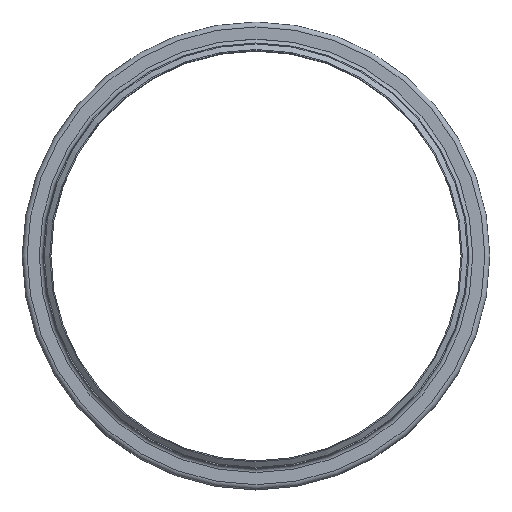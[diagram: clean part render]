
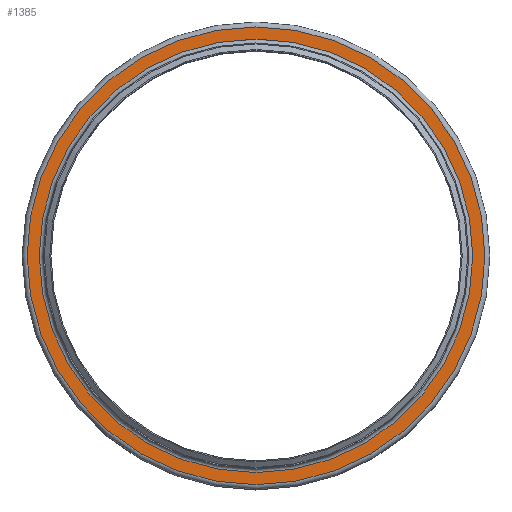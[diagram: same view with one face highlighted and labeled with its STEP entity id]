
A CAD part, top view. The second image highlights one B-rep face of the part: STEP entity #1385.
In plain terms, the highlighted planar face has unit normal (0, 0, 1).
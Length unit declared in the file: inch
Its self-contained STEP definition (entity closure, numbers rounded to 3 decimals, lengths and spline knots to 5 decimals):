
#155=FACE_BOUND('',#416,.T.);
#256=FACE_OUTER_BOUND('',#415,.T.);
#415=EDGE_LOOP('',(#1168));
#416=EDGE_LOOP('',(#1169));
#584=CIRCLE('',#1684,12.28);
#585=CIRCLE('',#1686,12.97);
#703=VERTEX_POINT('',#2631);
#704=VERTEX_POINT('',#2635);
#862=EDGE_CURVE('',#703,#703,#584,.T.);
#863=EDGE_CURVE('',#704,#704,#585,.T.);
#1168=ORIENTED_EDGE('',*,*,#863,.F.);
#1169=ORIENTED_EDGE('',*,*,#862,.T.);
#1284=PLANE('',#1685);
#1385=ADVANCED_FACE('',(#256,#155),#1284,.T.);
#1684=AXIS2_PLACEMENT_3D('',#2633,#2197,#2198);
#1685=AXIS2_PLACEMENT_3D('',#2634,#2199,#2200);
#1686=AXIS2_PLACEMENT_3D('',#2636,#2201,#2202);
#2197=DIRECTION('center_axis',(0.,0.,-1.));
#2198=DIRECTION('ref_axis',(1.,0.,0.));
#2199=DIRECTION('center_axis',(0.,0.,1.));
#2200=DIRECTION('ref_axis',(1.,0.,0.));
#2201=DIRECTION('center_axis',(0.,0.,-1.));
#2202=DIRECTION('ref_axis',(1.,0.,0.));
#2631=CARTESIAN_POINT('',(12.28,0.,-0.22));
#2633=CARTESIAN_POINT('Origin',(0.,0.,-0.22));
#2634=CARTESIAN_POINT('Origin',(0.,12.97,-0.22));
#2635=CARTESIAN_POINT('',(12.97,0.,-0.22));
#2636=CARTESIAN_POINT('Origin',(0.,0.,-0.22));
